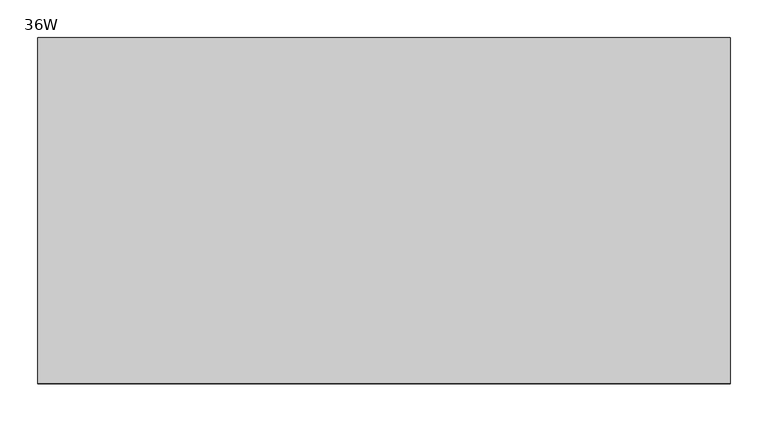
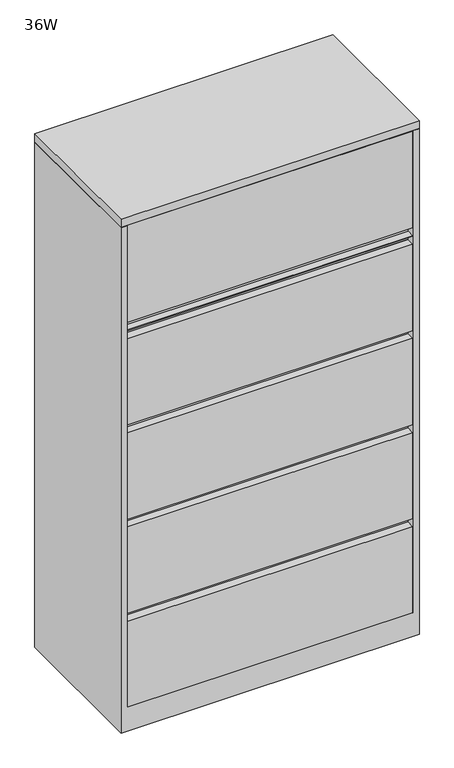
"""IFC4 building model written with IfcOpenShell, lengths in millimetres: furniture geometry, Steelcase - 900 Series - Storage - Lateral File With Drawer - 66H - Flush Steel : 36W."""

from ifc_helpers import new_model, si_unit, frame, origin, place, context, project, spatial, polyline, outline, extrude, faceted_brep, source, transform, mapped, element, save


def furniture_36w_acdb945f(model_context):
    return source(origin(), model_context, "Body", "SolidModel", [
        extrude(outline(polyline([(914.4, 0.0), (914.4, -457.2), (0.0, -457.2), (0.0, 0.0), (914.4, 0.0)])), frame((0.0, 0.0, 1638.2999516), z_axis=(0.0, 0.0, 1.0), x_axis=(1.0, 0.0, 0.0)), (0.0, 0.0, 1.0), 25.4),
        faceted_brep([(895.0960184, -25.2721219, 1636.776), (895.0960184, -457.2, 1636.776), (914.4, -457.2, 1636.776), (914.4, 0.0, 1636.776), (0.0, 0.0, 1636.776), (0.0, -457.2, 1636.776), (19.3039998, -457.2, 1636.776), (19.3039998, -25.2721219, 1636.776), (0.0, -457.2, 0.0), (0.0, 0.0, 0.0), (914.4, 0.0, 0.0), (914.4, -457.2, 0.0), (895.0960184, -25.2721219, 381.0), (895.0960184, -431.800255, 381.0), (895.0960184, -431.800255, 355.6), (895.0960184, -25.2721219, 355.6), (895.0960184, -25.2721219, 76.2), (895.0960184, -457.2, 76.2), (19.3039998, -457.2, 76.2), (19.3039998, -25.2721219, 76.2), (19.3039998, -25.2721219, 355.6), (19.3039998, -431.800255, 355.6), (19.3039998, -431.800255, 381.0), (19.3039998, -25.2721219, 381.0)], [[[0, 1, 2, 3, 4, 5, 6, 7]], [[8, 9, 10, 11]], [[1, 0, 12, 13, 14, 15, 16, 17]], [[2, 1, 17, 18, 6, 5, 8, 11]], [[3, 2, 11, 10]], [[4, 3, 10, 9]], [[5, 4, 9, 8]], [[7, 6, 18, 19, 20, 21, 22, 23]], [[0, 7, 23, 12]], [[16, 15, 20, 19]], [[18, 17, 16, 19]], [[22, 13, 12, 23]], [[13, 22, 21, 14]], [[14, 21, 20, 15]]]),
        extrude(outline(polyline([(893.5722015, -457.2), (20.8289612, -457.2), (20.8289612, -434.9741219), (893.5722015, -434.9741219), (893.5722015, -457.2)])), frame((0.0, 0.0, 1295.4), z_axis=(0.0, 0.0, 1.0), x_axis=(1.0, 0.0, 0.0)), (0.0, 0.0, 1.0), 3.175),
        extrude(outline(polyline([(893.5722015, -457.2), (20.8289612, -457.2), (20.8289612, -431.800255), (893.5722015, -431.800255), (893.5722015, -457.2)])), frame((0.0, 0.0, 1323.975), z_axis=(0.0, 0.0, 1.0), x_axis=(1.0, 0.0, 0.0)), (0.0, 0.0, 1.0), 312.801),
        extrude(outline(polyline([(895.0960184, -25.2721219), (895.0960184, -431.800255), (19.3039998, -431.800255), (19.3039998, -25.2721219), (895.0960184, -25.2721219)])), frame((0.0, 0.0, 660.4), z_axis=(0.0, 0.0, 1.0), x_axis=(1.0, 0.0, 0.0)), (0.0, 0.0, 1.0), 25.4),
        extrude(outline(polyline([(893.5722015, -457.2), (20.8289612, -457.2), (20.8289612, -431.800255), (893.5722015, -431.800255), (893.5722015, -457.2)])), frame((0.0, 0.0, 990.6), z_axis=(0.0, 0.0, 1.0), x_axis=(1.0, 0.0, 0.0)), (0.0, 0.0, 1.0), 279.4),
        extrude(outline(polyline([(893.5722015, -457.2), (20.8289612, -457.2), (20.8289612, -431.800255), (893.5722015, -431.800255), (893.5722015, -457.2)])), frame((0.0, 0.0, 685.8), z_axis=(0.0, 0.0, 1.0), x_axis=(1.0, 0.0, 0.0)), (0.0, 0.0, 1.0), 279.4),
        extrude(outline(polyline([(895.0960184, -25.2721219), (895.0960184, -431.800255), (19.3039998, -431.800255), (19.3039998, -25.2721219), (895.0960184, -25.2721219)])), frame((0.0, 0.0, 1270.0), z_axis=(0.0, 0.0, 1.0), x_axis=(1.0, 0.0, 0.0)), (0.0, 0.0, 1.0), 53.975),
        extrude(outline(polyline([(895.0960184, -25.2721219), (895.0960184, -431.800255), (19.3039998, -431.800255), (19.3039998, -25.2721219), (895.0960184, -25.2721219)])), frame((0.0, 0.0, 965.2), z_axis=(0.0, 0.0, 1.0), x_axis=(1.0, 0.0, 0.0)), (0.0, 0.0, 1.0), 25.4),
        extrude(outline(polyline([(895.0960184, -25.2721219), (895.0960184, -415.9241219), (20.8289612, -415.9241219), (20.8289612, -25.2721219), (895.0960184, -25.2721219)])), frame((0.0, 0.0, 1636.776), z_axis=(0.0, 0.0, 1.0), x_axis=(1.0, 0.0, 0.0)), (0.0, 0.0, 1.0), 1.5239516),
        extrude(outline(polyline([(893.5722015, -457.2), (20.8289612, -457.2), (20.8289612, -431.800255), (893.5722015, -431.800255), (893.5722015, -457.2)])), frame((0.0, 0.0, 76.2), z_axis=(0.0, 0.0, 1.0), x_axis=(1.0, 0.0, 0.0)), (0.0, 0.0, 1.0), 279.4),
        extrude(outline(polyline([(893.5722015, -457.2), (20.8289612, -457.2), (20.8289612, -431.800255), (893.5722015, -431.800255), (893.5722015, -457.2)])), frame((0.0, 0.0, 381.0), z_axis=(0.0, 0.0, 1.0), x_axis=(1.0, 0.0, 0.0)), (0.0, 0.0, 1.0), 279.4),
    ])


if __name__ == "__main__":
    model = new_model("IFC4")
    model_context = context("Model", 3, world=origin())
    ifc_project = project(units=[si_unit("LENGTHUNIT", "METRE", prefix="MILLI")], contexts=[model_context])
    site = spatial("IfcSite", under=ifc_project)
    building = spatial("IfcBuilding", under=site)
    placement = place(None, origin())
    furniture_36w_shape = furniture_36w_acdb945f(model_context)
    element("IfcFurniture", 1, ObjectType="Steelcase - 900 Series - Storage - Lateral File With Drawer - 66H - Flush Steel : 36W", at=placement, inside=building, context=model_context, shape_type="MappedRepresentation", body=[
        mapped(furniture_36w_shape, transform((0.0, 0.0, 0.0), x_axis=(1.0, 0.0, 0.0), y_axis=(0.0, 1.0, 0.0), z_axis=(0.0, 0.0, 1.0))),
    ])
    save(model, "model.ifc")
